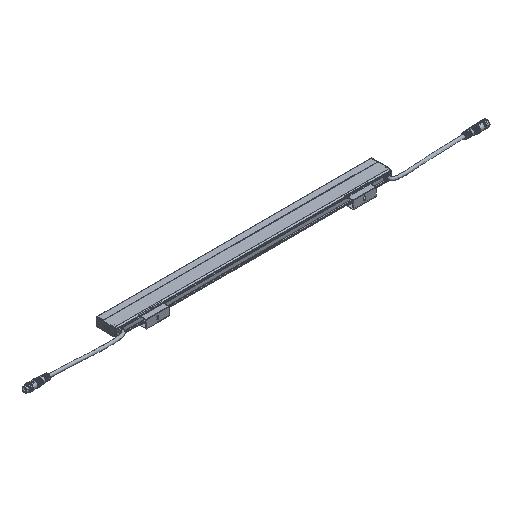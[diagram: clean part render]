
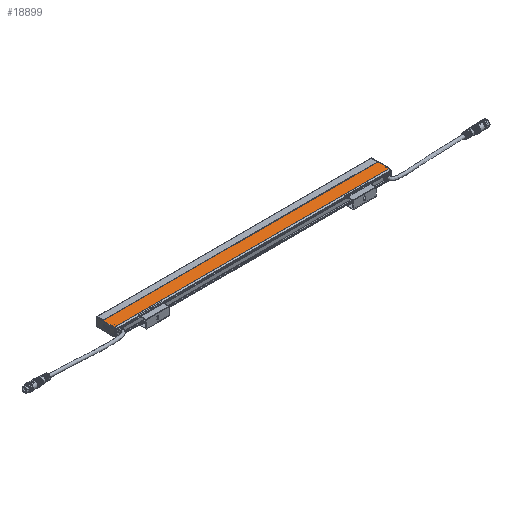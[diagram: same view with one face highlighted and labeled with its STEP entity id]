
A CAD part, isometric view. The second image highlights one B-rep face of the part: STEP entity #18899.
In plain terms, the highlighted planar face has unit normal (0, 0, 1).
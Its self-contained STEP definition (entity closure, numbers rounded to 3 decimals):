
#3622 = VERTEX_POINT ( 'NONE', #42522 ) ;
#3629 = LINE ( 'NONE', #31303, #11895 ) ;
#3947 = AXIS2_PLACEMENT_3D ( 'NONE', #19203, #51797, #33596 ) ;
#4007 = CARTESIAN_POINT ( 'NONE',  ( 299.5, 20.786, 9.15 ) ) ;
#4229 = DIRECTION ( 'NONE',  ( 0., -1., 0. ) ) ;
#4316 = DIRECTION ( 'NONE',  ( 0., 1., 0. ) ) ;
#4799 = CARTESIAN_POINT ( 'NONE',  ( 299.5, 59.492, 9.15 ) ) ;
#6101 = CARTESIAN_POINT ( 'NONE',  ( -298., 45.5, 9.15 ) ) ;
#6698 = EDGE_CURVE ( 'NONE', #57235, #46930, #55577, .T. ) ;
#7528 = VECTOR ( 'NONE', #36997, 1000. ) ;
#8252 = DIRECTION ( 'NONE',  ( 0., -1., 0. ) ) ;
#8889 = VECTOR ( 'NONE', #43481, 1000. ) ;
#9962 = DIRECTION ( 'NONE',  ( 0., 1., 0. ) ) ;
#10283 = VECTOR ( 'NONE', #4316, 1000. ) ;
#10527 = CARTESIAN_POINT ( 'NONE',  ( 299.5, 59.992, 9.15 ) ) ;
#10678 = ORIENTED_EDGE ( 'NONE', *, *, #28662, .T. ) ;
#10853 = CARTESIAN_POINT ( 'NONE',  ( -299.5, 20.786, 9.15 ) ) ;
#11324 = ORIENTED_EDGE ( 'NONE', *, *, #52276, .T. ) ;
#11513 = VERTEX_POINT ( 'NONE', #55165 ) ;
#11895 = VECTOR ( 'NONE', #4229, 1000. ) ;
#12320 = ORIENTED_EDGE ( 'NONE', *, *, #58062, .T. ) ;
#12976 = LINE ( 'NONE', #35276, #30220 ) ;
#15685 = DIRECTION ( 'NONE',  ( 0., -1., 0. ) ) ;
#16268 = LINE ( 'NONE', #25421, #34338 ) ;
#16699 = EDGE_CURVE ( 'NONE', #40983, #31668, #45123, .T. ) ;
#17542 = CARTESIAN_POINT ( 'NONE',  ( 298., 20.786, 9.15 ) ) ;
#18899 = ADVANCED_FACE ( 'NONE', ( #37458 ), #23942, .F. ) ;
#19203 = CARTESIAN_POINT ( 'NONE',  ( 298., 0., 9.15 ) ) ;
#20072 = CARTESIAN_POINT ( 'NONE',  ( -299.5, 0., 9.15 ) ) ;
#20202 = VECTOR ( 'NONE', #21269, 1000. ) ;
#20670 = ORIENTED_EDGE ( 'NONE', *, *, #16699, .F. ) ;
#20894 = EDGE_CURVE ( 'NONE', #38165, #3622, #16268, .T. ) ;
#21090 = CARTESIAN_POINT ( 'NONE',  ( 298., 45.5, 9.15 ) ) ;
#21269 = DIRECTION ( 'NONE',  ( 0., -1., 0. ) ) ;
#21988 = VECTOR ( 'NONE', #54275, 1000. ) ;
#22543 = VECTOR ( 'NONE', #9962, 1000. ) ;
#23942 = PLANE ( 'NONE',  #3947 ) ;
#24550 = CARTESIAN_POINT ( 'NONE',  ( 298., 59.492, 9.15 ) ) ;
#25074 = LINE ( 'NONE', #20072, #20202 ) ;
#25132 = ORIENTED_EDGE ( 'NONE', *, *, #20894, .T. ) ;
#25367 = DIRECTION ( 'NONE',  ( -1., 0., 0. ) ) ;
#25421 = CARTESIAN_POINT ( 'NONE',  ( -299.5, 0., 9.15 ) ) ;
#28147 = VERTEX_POINT ( 'NONE', #24550 ) ;
#28662 = EDGE_CURVE ( 'NONE', #44882, #38165, #37578, .T. ) ;
#29085 = VECTOR ( 'NONE', #25367, 1000. ) ;
#29274 = VERTEX_POINT ( 'NONE', #4799 ) ;
#29758 = EDGE_CURVE ( 'NONE', #44882, #57235, #12976, .T. ) ;
#30220 = VECTOR ( 'NONE', #8252, 1000. ) ;
#30253 = ORIENTED_EDGE ( 'NONE', *, *, #32671, .T. ) ;
#31303 = CARTESIAN_POINT ( 'NONE',  ( 298., 45.5, 9.15 ) ) ;
#31668 = VERTEX_POINT ( 'NONE', #10853 ) ;
#32671 = EDGE_CURVE ( 'NONE', #29274, #28147, #42388, .T. ) ;
#33596 = DIRECTION ( 'NONE',  ( 0., 1., 0. ) ) ;
#34338 = VECTOR ( 'NONE', #15685, 1000. ) ;
#35265 = CARTESIAN_POINT ( 'NONE',  ( -298., 45.5, 9.15 ) ) ;
#35276 = CARTESIAN_POINT ( 'NONE',  ( -298., 45.5, 9.15 ) ) ;
#36997 = DIRECTION ( 'NONE',  ( -1., 0., 0. ) ) ;
#37167 = ORIENTED_EDGE ( 'NONE', *, *, #45515, .T. ) ;
#37458 = FACE_OUTER_BOUND ( 'NONE', #42795, .T. ) ;
#37578 = LINE ( 'NONE', #55493, #7528 ) ;
#38165 = VERTEX_POINT ( 'NONE', #51697 ) ;
#40983 = VERTEX_POINT ( 'NONE', #4007 ) ;
#41439 = CARTESIAN_POINT ( 'NONE',  ( -298., 59.492, 9.15 ) ) ;
#42388 = LINE ( 'NONE', #42692, #29085 ) ;
#42522 = CARTESIAN_POINT ( 'NONE',  ( -299.5, 50.842, 9.15 ) ) ;
#42692 = CARTESIAN_POINT ( 'NONE',  ( 298., 59.492, 9.15 ) ) ;
#42795 = EDGE_LOOP ( 'NONE', ( #52558, #10678, #25132, #11324, #20670, #44697, #12320, #30253, #37167, #54442 ) ) ;
#43481 = DIRECTION ( 'NONE',  ( 1., 0., 0. ) ) ;
#44250 = CARTESIAN_POINT ( 'NONE',  ( 299.5, 50.842, 9.15 ) ) ;
#44697 = ORIENTED_EDGE ( 'NONE', *, *, #46304, .T. ) ;
#44882 = VERTEX_POINT ( 'NONE', #41439 ) ;
#45123 = LINE ( 'NONE', #17542, #21988 ) ;
#45515 = EDGE_CURVE ( 'NONE', #28147, #46930, #3629, .T. ) ;
#46304 = EDGE_CURVE ( 'NONE', #40983, #11513, #48386, .T. ) ;
#46930 = VERTEX_POINT ( 'NONE', #21090 ) ;
#48386 = LINE ( 'NONE', #44250, #10283 ) ;
#51697 = CARTESIAN_POINT ( 'NONE',  ( -299.5, 59.492, 9.15 ) ) ;
#51797 = DIRECTION ( 'NONE',  ( 0., 0., -1. ) ) ;
#52276 = EDGE_CURVE ( 'NONE', #3622, #31668, #25074, .T. ) ;
#52558 = ORIENTED_EDGE ( 'NONE', *, *, #29758, .F. ) ;
#54275 = DIRECTION ( 'NONE',  ( -1., 0., 0. ) ) ;
#54313 = LINE ( 'NONE', #10527, #22543 ) ;
#54442 = ORIENTED_EDGE ( 'NONE', *, *, #6698, .F. ) ;
#55165 = CARTESIAN_POINT ( 'NONE',  ( 299.5, 50.842, 9.15 ) ) ;
#55493 = CARTESIAN_POINT ( 'NONE',  ( 298., 59.492, 9.15 ) ) ;
#55577 = LINE ( 'NONE', #35265, #8889 ) ;
#57235 = VERTEX_POINT ( 'NONE', #6101 ) ;
#58062 = EDGE_CURVE ( 'NONE', #11513, #29274, #54313, .T. ) ;
